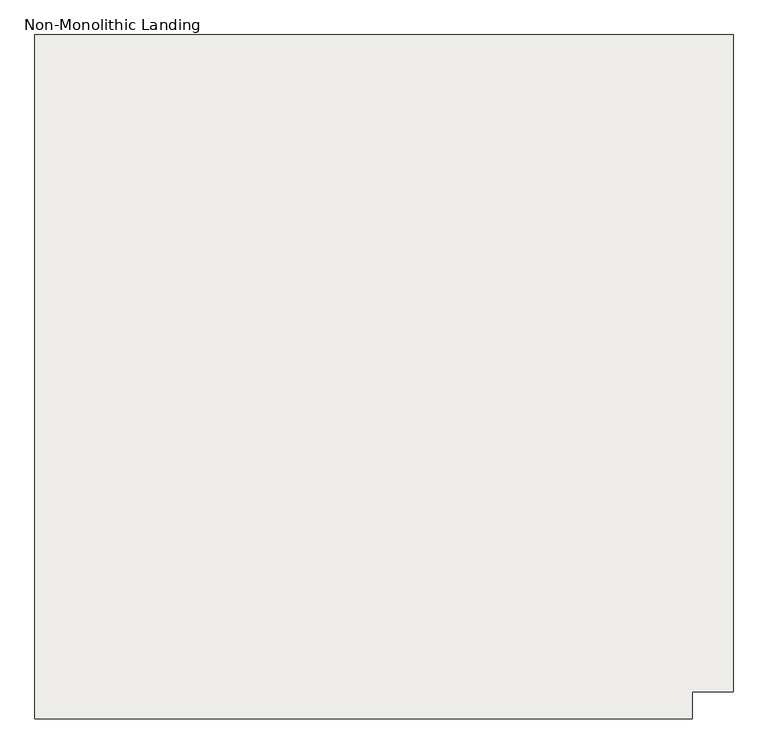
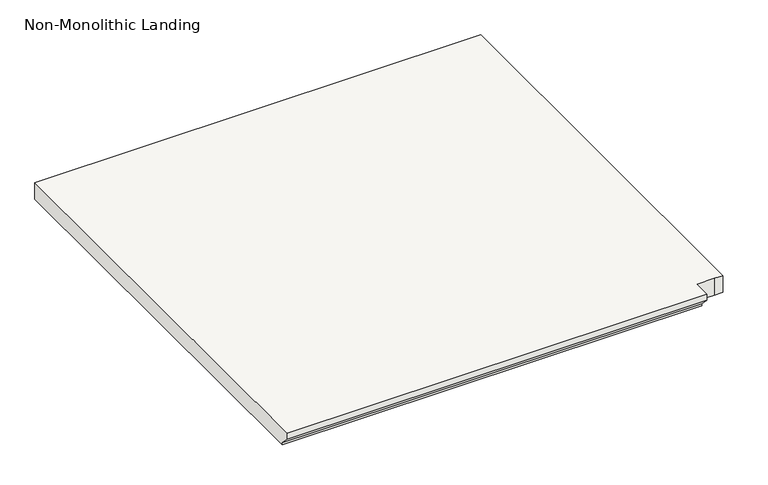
"""IFC4 building model written with IfcOpenShell, lengths in millimetres: slab geometry, Non-Monolithic Landing."""

import ifcopenshell
import ifcopenshell.guid

model = None  # the IFC model being written
_history = None  # IfcOwnerHistory: only IFC2X3 demands one
_inside = {}  # id of a spatial element -> (the spatial element, [elements in it])
_under = {}  # id of a project, library or spatial element -> (it, [spatial elements below it])
_declared = {}  # id of a project -> (the project, [libraries it declares])
_typed = {}  # id of a type object -> (the type object, [elements of that type])
_made_of = {}  # id of a material, layer set ... -> (it, [elements and type objects made of it])


def new_model(schema):
    """Start an empty IFC model of exactly this schema.

    Asked for "IFC4X3", IfcOpenShell would pick the latest addendum, in which some entities
    have other attributes; the version numbers below select the first issue.
    IFC2X3 requires an IfcOwnerHistory on every rooted entity: one is made here for all.
    """
    global model, _history
    if schema == "IFC4X3":
        model = ifcopenshell.file(schema_version=(4, 3, 0, 0))
    else:
        model = ifcopenshell.file(schema=schema)
    _inside.clear()
    _under.clear()
    _declared.clear()
    _typed.clear()
    _made_of.clear()
    _history = None
    if model.schema == "IFC2X3":
        org = make("IfcOrganization", Name="unknown")
        user = make(
            "IfcPersonAndOrganization",
            ThePerson=make("IfcPerson", FamilyName="unknown"),
            TheOrganization=org,
        )
        app = make(
            "IfcApplication",
            ApplicationDeveloper=org,
            Version="unknown",
            ApplicationFullName="unknown",
            ApplicationIdentifier="unknown",
        )
        _history = make(
            "IfcOwnerHistory",
            OwningUser=user,
            OwningApplication=app,
            ChangeAction="ADDED",
            CreationDate=0,
        )
    return model


def make(cls, **values):
    """One entity of the class cls with the attributes given. An attribute that is None is left unset."""
    return model.create_entity(
        cls, **{name: value for name, value in values.items() if value is not None}
    )


def rooted(cls, **values):
    """An entity with a GlobalId (a new one), such as an element, a storey or a relation."""
    return make(cls, GlobalId=ifcopenshell.guid.new(), OwnerHistory=_history, **values)


def si_unit(unit_type, name, prefix=None):
    """IfcSIUnit, for example si_unit("LENGTHUNIT", "METRE", prefix="MILLI")."""
    return make("IfcSIUnit", UnitType=unit_type, Prefix=prefix, Name=name)


def assignment(units):
    """IfcUnitAssignment: the units of a project."""
    return None if units is None else make("IfcUnitAssignment", Units=units)


def point(xyz):
    """IfcCartesianPoint."""
    return None if xyz is None else make("IfcCartesianPoint", Coordinates=xyz)


def direction(xyz):
    """IfcDirection."""
    return None if xyz is None else make("IfcDirection", DirectionRatios=xyz)


def frame(location, z_axis=None, x_axis=None):
    """IfcAxis2Placement3D, a coordinate frame: its origin and axes. An axis left out is left unset."""
    return make(
        "IfcAxis2Placement3D",
        Location=point(location),
        Axis=direction(z_axis),
        RefDirection=direction(x_axis),
    )


def origin():
    """The frame at (0, 0, 0) with its axes left unset."""
    return frame((0.0, 0.0, 0.0))


def place(relative_to, where):
    """IfcLocalPlacement: puts the frame where relative to a parent placement (None: the world)."""
    return make(
        "IfcLocalPlacement", PlacementRelTo=relative_to, RelativePlacement=where
    )


def context(
    kind, dimensions, precision=None, world=None, true_north=None, identifier=None
):
    """IfcGeometricRepresentationContext, for example the 3D "Model" context."""
    return make(
        "IfcGeometricRepresentationContext",
        ContextIdentifier=identifier,
        ContextType=kind,
        CoordinateSpaceDimension=dimensions,
        Precision=precision,
        WorldCoordinateSystem=world,
        TrueNorth=true_north,
    )


def project(units=None, contexts=None):
    """IfcProject with its units and contexts."""
    return rooted(
        "IfcProject",
        Name="project",
        RepresentationContexts=contexts,
        UnitsInContext=assignment(units),
    )


def spatial(cls, under=None, at=None, **own):
    """A site, building, storey or space (cls), placed at a placement, below another one or the project."""
    s = rooted(cls, ObjectPlacement=at, **own)
    if under is not None:
        _under.setdefault(under.id(), (under, []))[1].append(s)
    return s


def faces_of(points, faces, orient=None, outer=None):
    """IfcFace entities. A face is a list of loops; a loop is a list of indices into points, from 0.

    orient and outer hold one flag for each loop. By default every Orientation is true, the
    first loop of a face is its IfcFaceOuterBound and the others are IfcFaceBound.
    """
    made = []
    for i, loops in enumerate(faces):
        bounds = []
        for j, loop in enumerate(loops):
            is_outer = j == 0 if outer is None else outer[i][j]
            bounds.append(
                make(
                    "IfcFaceOuterBound" if is_outer else "IfcFaceBound",
                    Bound=make("IfcPolyLoop", Polygon=[points[k] for k in loop]),
                    Orientation=True if orient is None else orient[i][j],
                )
            )
        made.append(make("IfcFace", Bounds=bounds))
    return made


def faceted_brep(points, faces, orient=None, outer=None, voids=None):
    """IfcFacetedBrep: a solid bounded by flat faces; with voids (closed shells), ...WithVoids."""
    shared = [point(p) for p in points]
    hull = make("IfcClosedShell", CfsFaces=faces_of(shared, faces, orient, outer))
    if voids is None:
        return make("IfcFacetedBrep", Outer=hull)
    return make(
        "IfcFacetedBrepWithVoids",
        Outer=hull,
        Voids=[
            make(cls, CfsFaces=faces_of(shared, fs, o, b)) for cls, fs, o, b in voids
        ],
    )


def shape(context_of_items, identifier, shape_type, items):
    """IfcShapeRepresentation: the items that make up one representation, for example the "Body"."""
    return make(
        "IfcShapeRepresentation",
        ContextOfItems=context_of_items,
        RepresentationIdentifier=identifier,
        RepresentationType=shape_type,
        Items=items,
    )


def source(mapping_origin, context_of_items, identifier, shape_type, items):
    """IfcRepresentationMap: a shape defined once, which mapped items show again and again."""
    return make(
        "IfcRepresentationMap",
        MappingOrigin=mapping_origin,
        MappedRepresentation=shape(context_of_items, identifier, shape_type, items),
    )


def transform(
    local_origin,
    x_axis=None,
    y_axis=None,
    z_axis=None,
    scale=None,
    scale2=None,
    scale3=None,
    uniform=True,
):
    """IfcCartesianTransformationOperator3D, or its non-uniform kind. x_axis, y_axis, z_axis: its Axis1, 2, 3."""
    if uniform:
        return make(
            "IfcCartesianTransformationOperator3D",
            Axis1=direction(x_axis),
            Axis2=direction(y_axis),
            LocalOrigin=point(local_origin),
            Scale=scale,
            Axis3=direction(z_axis),
        )
    return make(
        "IfcCartesianTransformationOperator3DnonUniform",
        Axis1=direction(x_axis),
        Axis2=direction(y_axis),
        LocalOrigin=point(local_origin),
        Scale=scale,
        Axis3=direction(z_axis),
        Scale2=scale2,
        Scale3=scale3,
    )


def mapped(mapping_source, mapping_target):
    """IfcMappedItem: shows the shape of a source again, moved by a transform."""
    return make(
        "IfcMappedItem", MappingSource=mapping_source, MappingTarget=mapping_target
    )


def made_of(thing, what):
    """Note that an element or type object is made of a material, layer set ...; save() writes the relation."""
    if what is not None:
        _made_of.setdefault(what.id(), (what, []))[1].append(thing)
    return thing


def element(
    cls,
    number,
    at=None,
    inside=None,
    cuts=None,
    type_object=None,
    material=None,
    context=None,
    identifier="Body",
    shape_type=None,
    held_by="IfcProductDefinitionShape",
    body=None,
    shapes=None,
    **own,
):
    """One element of the class cls, such as IfcWall. Its Tag is "e" and its number.

    at: its placement. inside: the storey or other place that contains it. cuts: it is an
    opening in that element (IfcRelVoidsElement). A single representation is given by context,
    identifier, shape_type and body (its items); several are given by shapes. held_by: the class
    of the entity that holds the representations. save() writes the other relations.
    """
    e = rooted(cls, Tag="e%d" % number, ObjectPlacement=at, **own)
    if body is not None:
        shapes = [shape(context, identifier, shape_type, body)]
    if shapes is not None:
        e.Representation = make(held_by, Representations=shapes)
    if inside is not None:
        _inside.setdefault(inside.id(), (inside, []))[1].append(e)
    if cuts is not None:
        rooted(
            "IfcRelVoidsElement", RelatingBuildingElement=cuts, RelatedOpeningElement=e
        )
    if type_object is not None:
        _typed.setdefault(type_object.id(), (type_object, []))[1].append(e)
    return made_of(e, material)


def aggregate(whole, parts):
    """IfcRelAggregates: a whole, such as a stair, and the parts it consists of."""
    return rooted("IfcRelAggregates", RelatingObject=whole, RelatedObjects=parts)


def save(model, path):
    """Write the relations noted so far, then the file.

    IfcRelAggregates (storeys below a building ...), IfcRelContainedInSpatialStructure (elements
    in a storey), IfcRelDefinesByType, IfcRelAssociatesMaterial and IfcRelDeclares: one each for
    every whole, place, type object, material and project.
    """
    for whole, parts in _under.values():
        aggregate(whole, parts)
    for where, things in _inside.values():
        rooted(
            "IfcRelContainedInSpatialStructure",
            RelatedElements=things,
            RelatingStructure=where,
        )
    for kind, things in _typed.values():
        rooted("IfcRelDefinesByType", RelatedObjects=things, RelatingType=kind)
    for what, things in _made_of.values():
        rooted("IfcRelAssociatesMaterial", RelatedObjects=things, RelatingMaterial=what)
    for by, libraries in _declared.values():
        rooted("IfcRelDeclares", RelatingContext=by, RelatedDefinitions=libraries)
    model.write(path)


def non_monolithic_landing_1da9b7fb(model_context):
    return source(origin(), model_context, "Body", "Brep", [
        faceted_brep([(-17871.7273699, -12263.6253362, 7296.15), (-17871.7273699, -12263.6253362, 7315.2), (-19090.9273699, -12263.6253362, 7315.2), (-19090.9273699, -12263.6253362, 7296.15), (-17871.7273699, -12238.2253362, 7270.75), (-19090.9273699, -12238.2253362, 7270.75), (-17871.7273699, -12212.8253362, 7315.2), (-17820.9273699, -12212.8253362, 7315.2), (-17795.5273699, -12212.8253362, 7315.2), (-17795.5273699, -10993.6253362, 7315.2), (-17820.9273699, -10993.6253362, 7315.2), (-19090.9273699, -10993.6253362, 7315.2), (-17871.7273699, -12238.2253362, 7264.4), (-19090.9273699, -12238.2253362, 7264.4), (-19090.9273699, -10993.6253362, 7264.4), (-17820.9273699, -10993.6253362, 7264.4), (-17795.5273699, -10993.6253362, 7264.4), (-17795.5273699, -12212.8253362, 7264.4), (-17820.9273699, -12212.8253362, 7264.4), (-17871.7273699, -12212.8253362, 7264.4)], [[[0, 1, 2, 3]], [[4, 0, 3, 5]], [[6, 7, 8, 9, 10, 11, 2, 1]], [[12, 13, 14, 15, 16, 17, 18, 19]], [[13, 12, 4, 5]], [[6, 1, 0, 4, 12, 19]], [[7, 6, 19, 18]], [[8, 7, 18, 17]], [[9, 8, 17, 16]], [[10, 9, 16, 15]], [[11, 10, 15, 14]], [[2, 11, 14, 13, 5, 3]]]),
    ])


if __name__ == "__main__":
    model = new_model("IFC4")
    model_context = context("Model", 3, world=origin())
    ifc_project = project(units=[si_unit("LENGTHUNIT", "METRE", prefix="MILLI")], contexts=[model_context])
    site = spatial("IfcSite", under=ifc_project)
    building = spatial("IfcBuilding", under=site)
    placement = place(None, origin())
    non_monolithic_landing_shape = non_monolithic_landing_1da9b7fb(model_context)
    element("IfcSlab", 1, ObjectType="Non-Monolithic Landing", at=placement, inside=building, context=model_context, shape_type="MappedRepresentation", body=[
        mapped(non_monolithic_landing_shape, transform((0.0, 0.0, 0.0), x_axis=(1.0, 0.0, 0.0), y_axis=(0.0, 1.0, 0.0), z_axis=(0.0, 0.0, 1.0))),
    ])
    save(model, "model.ifc")
